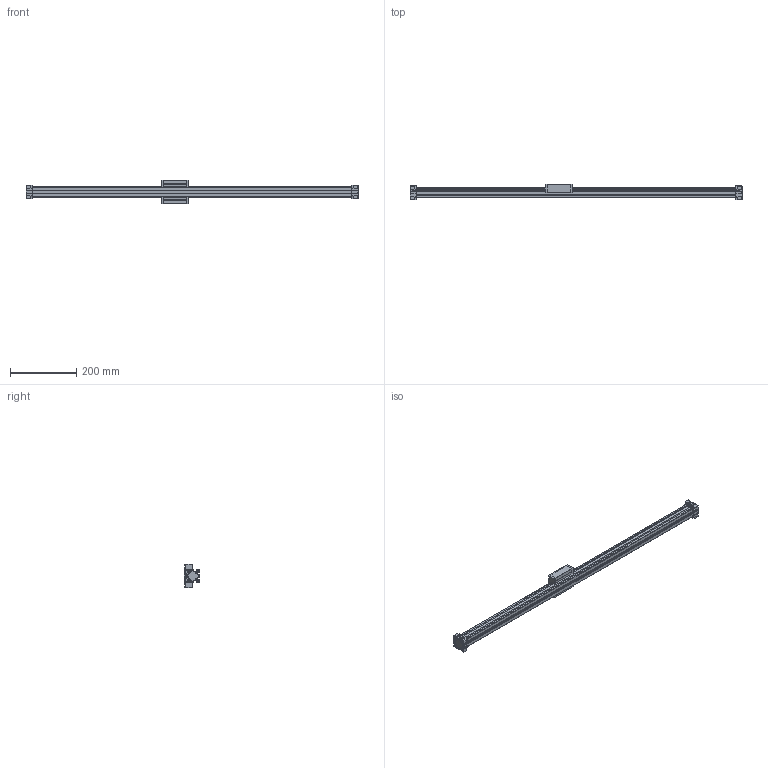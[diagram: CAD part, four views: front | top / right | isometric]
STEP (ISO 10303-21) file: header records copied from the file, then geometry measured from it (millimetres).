
FILE_DESCRIPTION (( 'STEP AP214' ), '1' );
FILE_NAME ('ELR-30.STEP', '2016-01-15T07:00:01', ( 'admin' ), ( '' ), 'SwSTEP 2.0', 'SolidWorks 2015', '' );
FILE_SCHEMA (( 'AUTOMOTIVE_DESIGN' ));
Length unit declared in the file: millimetre
Products named in the file (5): Kopie von Bahr-ELR-ELR-30  0  0 0  0 0 0 0  1120_EL30 Extrusion^ELR30 S0_0; Kopie von Bahr-ELR-ELR-30  0  0 0  0 0 0 0  1120_ELR End Block 30 (B)^ELR30 S0_ELR-30 End Block 0-0; Kopie von Bahr-ELR-ELR-30  0  0 0  0 0 0 0  1120_ELR End Block 30 (A)^ELR30 S0_ELR-30 End Block 0-0; ELR-30; Kopie von Bahr-ELR-ELR-30  0  0 0  0 0 0 0  1120_EL30 Carriage^ELR30 S0_A
Assembly tree (4 placements, depth 2):
  ELR-30
    Kopie von Bahr-ELR-ELR-30  0  0 0  0 0 0 0  1120_ELR End Block 30 (A)^ELR30 S0_ELR-30 End Block 0-0
    Kopie von Bahr-ELR-ELR-30  0  0 0  0 0 0 0  1120_ELR End Block 30 (B)^ELR30 S0_ELR-30 End Block 0-0
    Kopie von Bahr-ELR-ELR-30  0  0 0  0 0 0 0  1120_EL30 Extrusion^ELR30 S0_0
    Kopie von Bahr-ELR-ELR-30  0  0 0  0 0 0 0  1120_EL30 Carriage^ELR30 S0_A
Bounding box: 1001.4 x 47 x 70 mm (x, y, z)
Volume: 936185.6 mm3; surface area: 238944.4 mm2
Topology: 18 solids, 18 shells, 821 faces, 2293 edges, 1510 vertices
Faces by surface type: plane 572, cylinder 213, cone 28, torus 4, sphere 4
Entity records: 26573 total; most frequent: CARTESIAN_POINT 4627, ORIENTED_EDGE 4578, DIRECTION 4419, EDGE_CURVE 2289, VECTOR 1815, LINE 1815, VERTEX_POINT 1510, AXIS2_PLACEMENT_3D 1302
